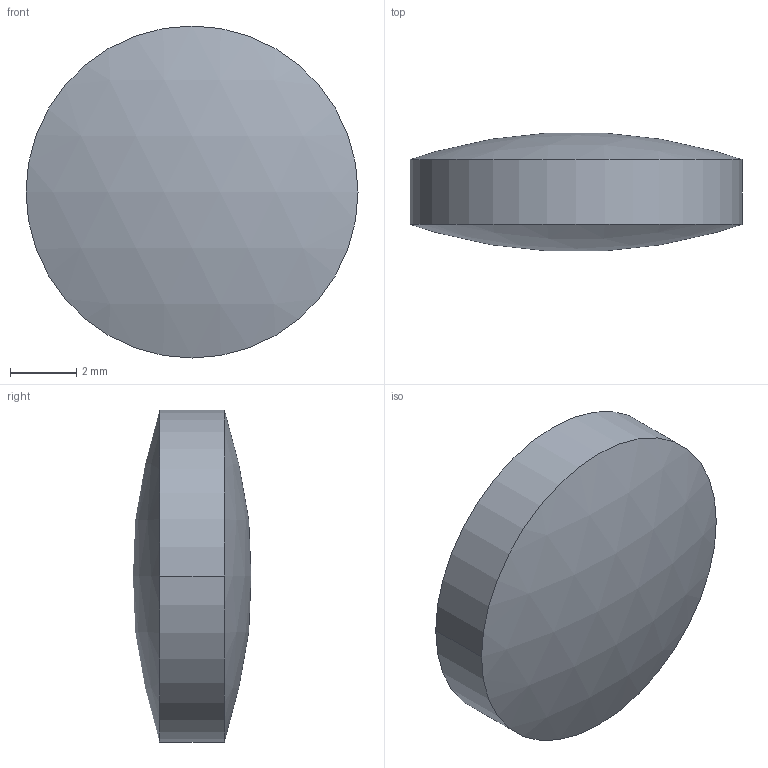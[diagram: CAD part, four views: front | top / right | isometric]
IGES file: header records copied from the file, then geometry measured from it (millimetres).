
Global section: file name: No Iges File Name specified; native system: AutoDesk Inventor R12.0; preprocessor: AutoDesk Inventor Iges Exporter R12.0; author: No Author specified; organization: No Organization specified; date: 20090513.130222; units: millimetre
Bounding box: 10 x 3.55 x 10 mm (x, y, z)
Volume: 218.6 mm3; surface area: 222.6 mm2
Topology: 1 solids, 1 shells, 4 faces, 6 edges, 4 vertices
Faces by surface type: cylinder 2, sphere 2
